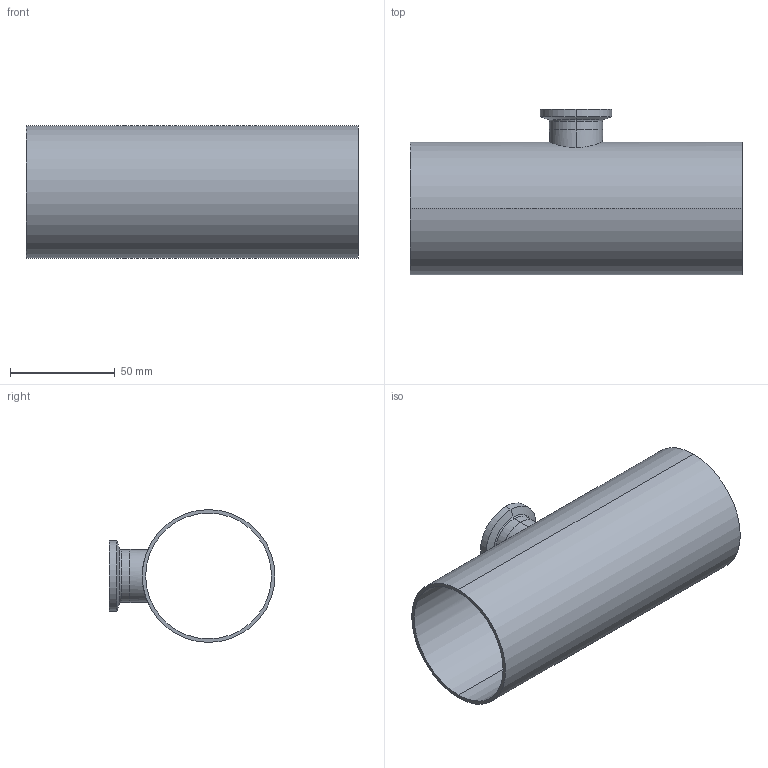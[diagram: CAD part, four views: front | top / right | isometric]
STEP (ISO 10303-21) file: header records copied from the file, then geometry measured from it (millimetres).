
FILE_DESCRIPTION (( 'STEP AP214' ), '1' );
FILE_NAME ('TE7RWWCS6L2.5x1.0-..Type A.STEP', '2016-05-23T12:11:17', ( 'eran' ), ( '' ), 'SwSTEP 2.0', 'SolidWorks 2016', '' );
FILE_SCHEMA (( 'AUTOMOTIVE_DESIGN' ));
Length unit declared in the file: millimetre
Products named in the file (1): TE7RWWCS6L2.5x1.0-..Type A
Bounding box: 158.8 x 79.35 x 63.5 mm (x, y, z)
Volume: 53641.6 mm3; surface area: 65402.7 mm2
Topology: 2 solids, 2 shells, 34 faces, 70 edges, 42 vertices
Faces by surface type: cylinder 16, bspline 8, plane 6, cone 4
Entity records: 1231 total; most frequent: CARTESIAN_POINT 471, DIRECTION 158, ORIENTED_EDGE 140, EDGE_CURVE 70, AXIS2_PLACEMENT_3D 69, VERTEX_POINT 42, EDGE_LOOP 42, CIRCLE 42
